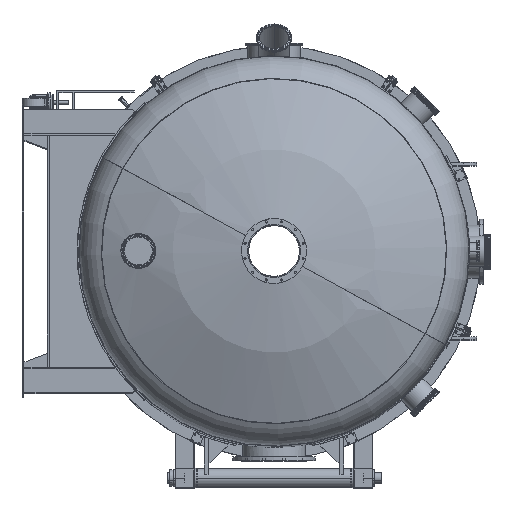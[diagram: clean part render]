
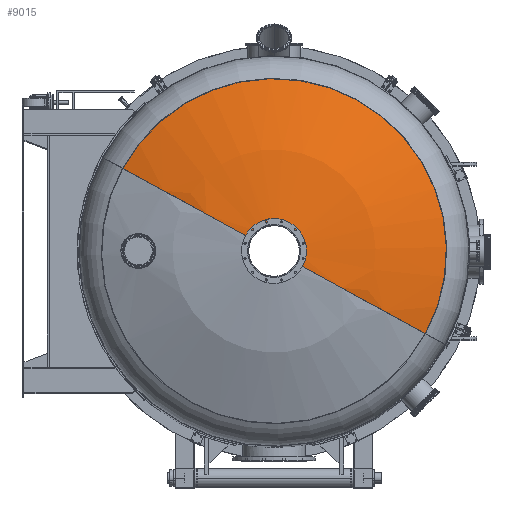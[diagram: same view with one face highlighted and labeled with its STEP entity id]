
A CAD part, top view. The second image highlights one B-rep face of the part: STEP entity #9015.
In plain terms, the highlighted spherical face has radius 2005 mm.
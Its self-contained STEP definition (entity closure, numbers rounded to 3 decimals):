
#8951=CARTESIAN_POINT('Vertex',(782.024,-427.221,3723.64)) ;
#8958=CARTESIAN_POINT('Vertex',(-782.024,427.221,3723.64)) ;
#8961=CARTESIAN_POINT('Axis2P3D Location',(0.,0.,3723.64)) ;
#8985=CARTESIAN_POINT('Axis2P3D Location',(0.,0.,1927.548)) ;
#8990=CARTESIAN_POINT('Axis2P3D Location',(0.,0.,1927.548)) ;
#8994=CARTESIAN_POINT('Vertex',(119.878,-65.49,3927.89)) ;
#8997=CARTESIAN_POINT('Axis2P3D Location',(0.,0.,1927.548)) ;
#9001=CARTESIAN_POINT('Vertex',(-119.878,65.49,3927.89)) ;
#9004=CARTESIAN_POINT('Axis2P3D Location',(0.,0.,3927.89)) ;
#8962=DIRECTION('Axis2P3D Direction',(0.,-0.,-1.)) ;
#8986=DIRECTION('Axis2P3D Direction',(0.,-0.,-1.)) ;
#8987=DIRECTION('Axis2P3D XDirection',(-0.878,0.479,0.)) ;
#8991=DIRECTION('Axis2P3D Direction',(0.479,0.878,-0.)) ;
#8998=DIRECTION('Axis2P3D Direction',(-0.479,-0.878,0.)) ;
#9005=DIRECTION('Axis2P3D Direction',(0.,-0.,-1.)) ;
#8963=AXIS2_PLACEMENT_3D('Circle Axis2P3D',#8961,#8962,$) ;
#8988=AXIS2_PLACEMENT_3D('Sphere Axis2P3D',#8985,#8986,#8987) ;
#8992=AXIS2_PLACEMENT_3D('Circle Axis2P3D',#8990,#8991,$) ;
#8999=AXIS2_PLACEMENT_3D('Circle Axis2P3D',#8997,#8998,$) ;
#9006=AXIS2_PLACEMENT_3D('Circle Axis2P3D',#9004,#9005,$) ;
#8964=CIRCLE('generated circle',#8963,891.111) ;
#8993=CIRCLE('generated circle',#8992,2005.) ;
#9000=CIRCLE('generated circle',#8999,2005.) ;
#9007=CIRCLE('generated circle',#9006,136.6) ;
#8989=SPHERICAL_SURFACE('',#8988,2005.) ;
#8965=EDGE_CURVE('',#8959,#8952,#8964,.T.) ;
#8996=EDGE_CURVE('',#8995,#8952,#8993,.T.) ;
#9003=EDGE_CURVE('',#9002,#8959,#9000,.T.) ;
#9008=EDGE_CURVE('',#9002,#8995,#9007,.T.) ;
#9010=ORIENTED_EDGE('',*,*,#8996,.T.) ;
#9011=ORIENTED_EDGE('',*,*,#8965,.F.) ;
#9012=ORIENTED_EDGE('',*,*,#9003,.F.) ;
#9013=ORIENTED_EDGE('',*,*,#9008,.T.) ;
#9009=EDGE_LOOP('',(#9010,#9011,#9012,#9013)) ;
#8952=VERTEX_POINT('',#8951) ;
#8959=VERTEX_POINT('',#8958) ;
#8995=VERTEX_POINT('',#8994) ;
#9002=VERTEX_POINT('',#9001) ;
#9015=ADVANCED_FACE('Hauptk\X2\00F6\X0\rper',(#9014),#8989,.T.) ;
#9014=FACE_OUTER_BOUND('',#9009,.T.) ;
